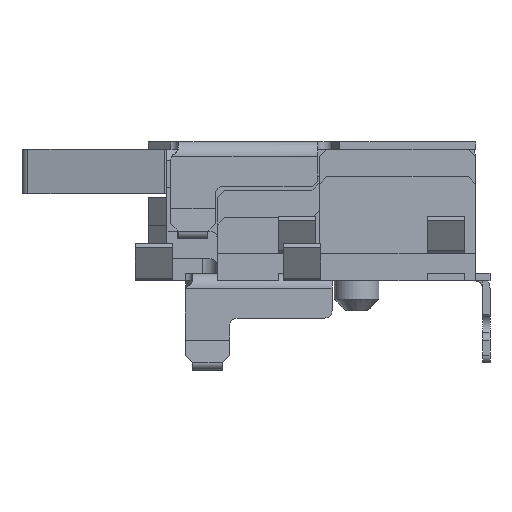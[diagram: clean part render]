
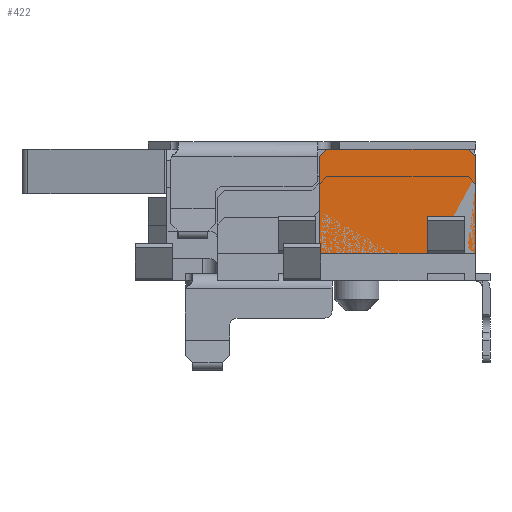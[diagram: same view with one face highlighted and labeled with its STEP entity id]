
A CAD part, left-side view. The second image highlights one B-rep face of the part: STEP entity #422.
In plain terms, the highlighted planar face has unit normal (-1, 0, 0).
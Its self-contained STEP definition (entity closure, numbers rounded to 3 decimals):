
#422 = ADVANCED_FACE( '', ( #1004 ), #1005, .F. );
#1004 = FACE_OUTER_BOUND( '', #1792, .T. );
#1005 = PLANE( '', #1793 );
#1792 = EDGE_LOOP( '', ( #2907, #2908, #2909, #2910, #2911, #2912, #2913, #2914, #2915, #2916, #2917 ) );
#1793 = AXIS2_PLACEMENT_3D( '', #2918, #2919, #2920 );
#2907 = ORIENTED_EDGE( '', *, *, #5050, .T. );
#2908 = ORIENTED_EDGE( '', *, *, #5051, .F. );
#2909 = ORIENTED_EDGE( '', *, *, #5052, .T. );
#2910 = ORIENTED_EDGE( '', *, *, #5053, .T. );
#2911 = ORIENTED_EDGE( '', *, *, #5054, .T. );
#2912 = ORIENTED_EDGE( '', *, *, #5055, .F. );
#2913 = ORIENTED_EDGE( '', *, *, #5056, .T. );
#2914 = ORIENTED_EDGE( '', *, *, #4783, .F. );
#2915 = ORIENTED_EDGE( '', *, *, #5057, .T. );
#2916 = ORIENTED_EDGE( '', *, *, #5058, .T. );
#2917 = ORIENTED_EDGE( '', *, *, #5059, .T. );
#2918 = CARTESIAN_POINT( '', ( -2.475, -2.08, 1.4 ) );
#2919 = DIRECTION( '', ( 1., 0., 0. ) );
#2920 = DIRECTION( '', ( 0., 1., 0. ) );
#4783 = EDGE_CURVE( '', #5736, #5738, #5739, .T. );
#5050 = EDGE_CURVE( '', #6212, #6213, #6214, .T. );
#5051 = EDGE_CURVE( '', #6215, #6213, #6216, .T. );
#5052 = EDGE_CURVE( '', #6215, #6217, #6218, .T. );
#5053 = EDGE_CURVE( '', #6217, #6219, #6220, .T. );
#5054 = EDGE_CURVE( '', #6219, #6221, #6222, .T. );
#5055 = EDGE_CURVE( '', #6223, #6221, #6224, .T. );
#5056 = EDGE_CURVE( '', #6223, #5738, #6225, .T. );
#5057 = EDGE_CURVE( '', #5736, #6226, #6227, .T. );
#5058 = EDGE_CURVE( '', #6226, #6228, #6229, .T. );
#5059 = EDGE_CURVE( '', #6228, #6212, #6230, .T. );
#5736 = VERTEX_POINT( '', #7127 );
#5738 = VERTEX_POINT( '', #7130 );
#5739 = LINE( '', #7131, #7132 );
#6212 = VERTEX_POINT( '', #7820 );
#6213 = VERTEX_POINT( '', #7821 );
#6214 = LINE( '', #7822, #7823 );
#6215 = VERTEX_POINT( '', #7824 );
#6216 = LINE( '', #7825, #7826 );
#6217 = VERTEX_POINT( '', #7827 );
#6218 = LINE( '', #7828, #7829 );
#6219 = VERTEX_POINT( '', #7830 );
#6220 = LINE( '', #7831, #7832 );
#6221 = VERTEX_POINT( '', #7833 );
#6222 = LINE( '', #7834, #7835 );
#6223 = VERTEX_POINT( '', #7836 );
#6224 = LINE( '', #7837, #7838 );
#6225 = LINE( '', #7839, #7840 );
#6226 = VERTEX_POINT( '', #7841 );
#6227 = LINE( '', #7842, #7843 );
#6228 = VERTEX_POINT( '', #7844 );
#6229 = LINE( '', #7845, #7846 );
#6230 = LINE( '', #7847, #7848 );
#7127 = CARTESIAN_POINT( '', ( -2.475, -0.08, 1.4 ) );
#7130 = CARTESIAN_POINT( '', ( -2.475, -1.98, 1.4 ) );
#7131 = CARTESIAN_POINT( '', ( -2.475, -2.08, 1.4 ) );
#7132 = VECTOR( '', #9047, 1000. );
#7820 = CARTESIAN_POINT( '', ( -2.475, 0.02, 0. ) );
#7821 = CARTESIAN_POINT( '', ( -2.475, -1.43, 0. ) );
#7822 = CARTESIAN_POINT( '', ( -2.475, -2.08, 0. ) );
#7823 = VECTOR( '', #9389, 1000. );
#7824 = CARTESIAN_POINT( '', ( -2.475, -1.43, 0.1 ) );
#7825 = CARTESIAN_POINT( '', ( -2.475, -1.43, 0.1 ) );
#7826 = VECTOR( '', #9390, 1000. );
#7827 = CARTESIAN_POINT( '', ( -2.475, -1.93, 0.1 ) );
#7828 = CARTESIAN_POINT( '', ( -2.475, -1.43, 0.1 ) );
#7829 = VECTOR( '', #9391, 1000. );
#7830 = CARTESIAN_POINT( '', ( -2.475, -1.93, 0. ) );
#7831 = CARTESIAN_POINT( '', ( -2.475, -1.93, 0.1 ) );
#7832 = VECTOR( '', #9392, 1000. );
#7833 = CARTESIAN_POINT( '', ( -2.475, -2.08, 0. ) );
#7834 = CARTESIAN_POINT( '', ( -2.475, -2.08, 0. ) );
#7835 = VECTOR( '', #9393, 1000. );
#7836 = CARTESIAN_POINT( '', ( -2.475, -2.08, 1.3 ) );
#7837 = CARTESIAN_POINT( '', ( -2.475, -2.08, 1.4 ) );
#7838 = VECTOR( '', #9394, 1000. );
#7839 = CARTESIAN_POINT( '', ( -2.475, -1.98, 1.4 ) );
#7840 = VECTOR( '', #9395, 1000. );
#7841 = CARTESIAN_POINT( '', ( -2.475, 0.02, 1.3 ) );
#7842 = CARTESIAN_POINT( '', ( -2.475, -0.08, 1.4 ) );
#7843 = VECTOR( '', #9396, 1000. );
#7844 = CARTESIAN_POINT( '', ( -2.475, 0.02, 0.95 ) );
#7845 = CARTESIAN_POINT( '', ( -2.475, 0.02, 1.4 ) );
#7846 = VECTOR( '', #9397, 1000. );
#7847 = CARTESIAN_POINT( '', ( -2.475, 0.02, 0.85 ) );
#7848 = VECTOR( '', #9398, 1000. );
#9047 = DIRECTION( '', ( 0., -1., 0. ) );
#9389 = DIRECTION( '', ( 0., -1., 0. ) );
#9390 = DIRECTION( '', ( 0., 0., -1. ) );
#9391 = DIRECTION( '', ( 0., -1., 0. ) );
#9392 = DIRECTION( '', ( 0., 0., -1. ) );
#9393 = DIRECTION( '', ( 0., -1., 0. ) );
#9394 = DIRECTION( '', ( 0., 0., -1. ) );
#9395 = DIRECTION( '', ( 0., 0.707, 0.707 ) );
#9396 = DIRECTION( '', ( 0., 0.707, -0.707 ) );
#9397 = DIRECTION( '', ( 0., 0., -1. ) );
#9398 = DIRECTION( '', ( 0., 0., -1. ) );
